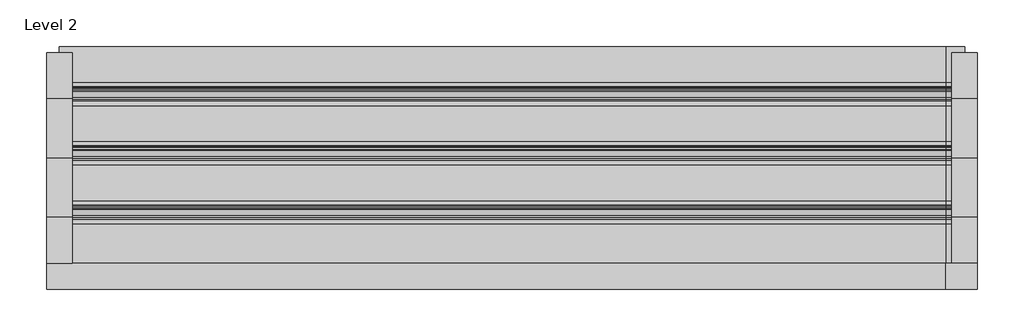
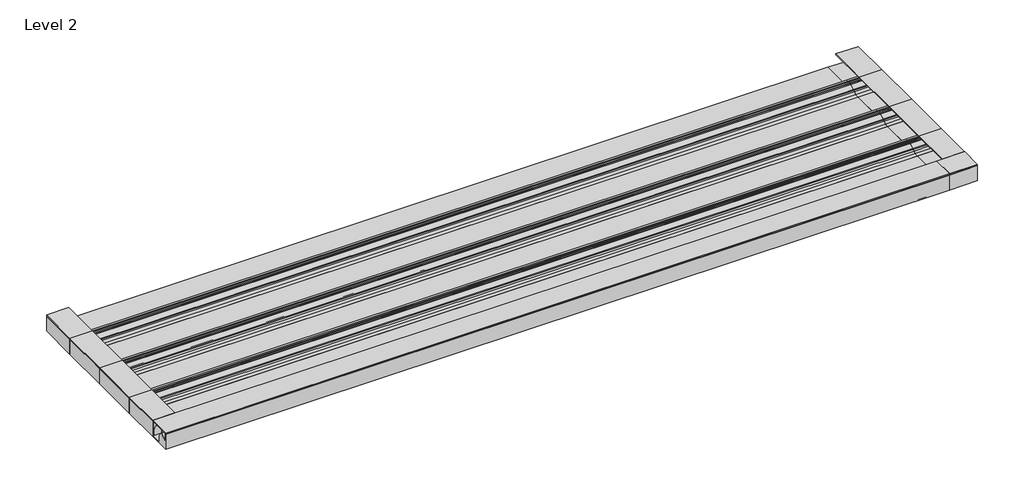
# One storey: 10 members, 8 plates.
"""IFC4 building model written with IfcOpenShell, lengths in millimetres."""

from ifc_helpers import new_model, si_unit, origin, place, context, project, spatial, transform, mapped, element, save
from components import rectangular_mullion_fastplank_2_piece_j_trim_soffit_b0c86bea, rectangular_mullion_fastplank_2_piece_j_trim_soffit_a2a4a74a, rectangular_mullion_fastplank_2_piece_j_trim_soffit_34017da6, rectangular_mullion_fastplank_2_piece_j_trim_soffit_1b3d705d, rectangular_mullion_fastplank_2_piece_j_trim_soffit_3acf384f, plate_b531e358, plate_38b17508, plate_53d9c273, plate_b1f777b9

model = new_model("IFC4")

# Units and contexts
model_context = context("Model", 3, world=origin())
ifc_project = project(units=[si_unit("LENGTHUNIT", "METRE", prefix="MILLI")], contexts=[model_context])

# Site, building, storey
site = spatial("IfcSite", under=ifc_project)
building = spatial("IfcBuilding", under=site)
storey = spatial("IfcBuildingStorey", under=building, Name="Level 2", Elevation=3048.0)

# Members
placement = place(None, origin())
rectangular_mullion_fastplank_2_piece_j_trim_soffit_shape = rectangular_mullion_fastplank_2_piece_j_trim_soffit_b0c86bea(model_context)
element("IfcMember", 1, ObjectType="Rectangular Mullion : FastPlank_2-Piece-J-Trim-Soffit", at=placement, inside=storey, context=model_context, shape_type="MappedRepresentation", body=[
    mapped(rectangular_mullion_fastplank_2_piece_j_trim_soffit_shape, transform((-2056.789314, 5271.3773851, 2032.0), x_axis=(-1.0, 0.0, 0.0), y_axis=(0.0, 0.0, -1.0), z_axis=(0.0, -1.0, 0.0))),
])
element("IfcMember", 2, ObjectType="Rectangular Mullion : FastPlank_2-Piece-J-Trim-Soffit", at=placement, inside=storey, context=model_context, shape_type="MappedRepresentation", body=[
    mapped(rectangular_mullion_fastplank_2_piece_j_trim_soffit_shape, transform((-2056.789314, 5372.9773851, 2032.0), x_axis=(-1.0, 0.0, 0.0), y_axis=(0.0, 0.0, -1.0), z_axis=(0.0, -1.0, 0.0))),
])
element("IfcMember", 3, ObjectType="Rectangular Mullion : FastPlank_2-Piece-J-Trim-Soffit", at=placement, inside=storey, context=model_context, shape_type="MappedRepresentation", body=[
    mapped(rectangular_mullion_fastplank_2_piece_j_trim_soffit_shape, transform((-456.589314, 5372.9773851, 2032.0), x_axis=(1.0, 0.0, 0.0), y_axis=(0.0, 0.0, -1.0), z_axis=(0.0, 1.0, 0.0))),
])
element("IfcMember", 4, ObjectType="Rectangular Mullion : FastPlank_2-Piece-J-Trim-Soffit", at=placement, inside=storey, context=model_context, shape_type="MappedRepresentation", body=[
    mapped(rectangular_mullion_fastplank_2_piece_j_trim_soffit_shape, transform((-456.589314, 5474.5773851, 2032.0), x_axis=(1.0, 0.0, 0.0), y_axis=(0.0, 0.0, -1.0), z_axis=(0.0, 1.0, 0.0))),
])
rectangular_mullion_fastplank_2_piece_j_trim_soffit_2_shape = rectangular_mullion_fastplank_2_piece_j_trim_soffit_a2a4a74a(model_context)
element("IfcMember", 5, ObjectType="Rectangular Mullion : FastPlank_2-Piece-J-Trim-Soffit", at=placement, inside=storey, context=model_context, shape_type="MappedRepresentation", body=[
    mapped(rectangular_mullion_fastplank_2_piece_j_trim_soffit_2_shape, transform((-2056.789314, 5192.2885767, 2032.0), x_axis=(-1.0, 0.0, 0.0), y_axis=(0.0, 0.0, -1.0), z_axis=(0.0, -1.0, 0.0))),
])
rectangular_mullion_fastplank_2_piece_j_trim_soffit_3_shape = rectangular_mullion_fastplank_2_piece_j_trim_soffit_34017da6(model_context)
element("IfcMember", 6, ObjectType="Rectangular Mullion : FastPlank_2-Piece-J-Trim-Soffit", at=placement, inside=storey, context=model_context, shape_type="MappedRepresentation", body=[
    mapped(rectangular_mullion_fastplank_2_piece_j_trim_soffit_3_shape, transform((-2056.789314, 5474.5773851, 2032.0), x_axis=(-1.0, 0.0, 0.0), y_axis=(0.0, 0.0, -1.0), z_axis=(0.0, -1.0, 0.0))),
])
element("IfcMember", 7, ObjectType="Rectangular Mullion : FastPlank_2-Piece-J-Trim-Soffit", at=placement, inside=storey, context=model_context, shape_type="MappedRepresentation", body=[
    mapped(rectangular_mullion_fastplank_2_piece_j_trim_soffit_2_shape, transform((-456.589314, 5271.3773851, 2032.0), x_axis=(1.0, 0.0, 0.0), y_axis=(0.0, 0.0, -1.0), z_axis=(0.0, 1.0, 0.0))),
])
element("IfcMember", 8, ObjectType="Rectangular Mullion : FastPlank_2-Piece-J-Trim-Soffit", at=placement, inside=storey, context=model_context, shape_type="MappedRepresentation", body=[
    mapped(rectangular_mullion_fastplank_2_piece_j_trim_soffit_3_shape, transform((-456.589314, 5554.2410752, 2032.0), x_axis=(1.0, 0.0, 0.0), y_axis=(0.0, 0.0, -1.0), z_axis=(0.0, 1.0, 0.0))),
])
rectangular_mullion_fastplank_2_piece_j_trim_soffit_4_shape = rectangular_mullion_fastplank_2_piece_j_trim_soffit_1b3d705d(model_context)
element("IfcMember", 9, ObjectType="Rectangular Mullion : FastPlank_2-Piece-J-Trim-Soffit", at=placement, inside=storey, context=model_context, shape_type="MappedRepresentation", body=[
    mapped(rectangular_mullion_fastplank_2_piece_j_trim_soffit_4_shape, transform((-456.589314, 5147.8410752, 2032.0), x_axis=(0.0, -1.0, 0.0), y_axis=(0.0, 0.0, -1.0), z_axis=(1.0, 0.0, 0.0))),
])
rectangular_mullion_fastplank_2_piece_j_trim_soffit_5_shape = rectangular_mullion_fastplank_2_piece_j_trim_soffit_3acf384f(model_context)
element("IfcMember", 10, ObjectType="Rectangular Mullion : FastPlank_2-Piece-J-Trim-Soffit", at=placement, inside=storey, context=model_context, shape_type="MappedRepresentation", body=[
    mapped(rectangular_mullion_fastplank_2_piece_j_trim_soffit_5_shape, transform((-510.8530037, 5147.8410752, 2032.0), x_axis=(0.0, -1.0, 0.0), y_axis=(0.0, 0.0, -1.0), z_axis=(1.0, 0.0, 0.0))),
])

# Plates
plate_shape = plate_b531e358(model_context)
element("IfcPlate", 11, ObjectType="FastPlank_P47V-V-Notch-Soffit-Plank : P47V-V-Notch-Soffit-Plank", at=placement, inside=storey, context=model_context, shape_type="MappedRepresentation", body=[
    mapped(plate_shape, transform((-1272.8530038, 5169.7773851, 2032.0), x_axis=(1.0, 0.0, 0.0), y_axis=(0.0, 0.0, -1.0), z_axis=(0.0, 1.0, 0.0))),
])
element("IfcPlate", 12, ObjectType="FastPlank_P47V-V-Notch-Soffit-Plank : P47V-V-Notch-Soffit-Plank", at=placement, inside=storey, context=model_context, shape_type="MappedRepresentation", body=[
    mapped(plate_shape, transform((-1272.8530038, 5271.3773851, 2032.0), x_axis=(1.0, 0.0, 0.0), y_axis=(0.0, 0.0, -1.0), z_axis=(0.0, 1.0, 0.0))),
])
element("IfcPlate", 13, ObjectType="FastPlank_P47V-V-Notch-Soffit-Plank : P47V-V-Notch-Soffit-Plank", at=placement, inside=storey, context=model_context, shape_type="MappedRepresentation", body=[
    mapped(plate_shape, transform((-1272.8530038, 5372.9773851, 2032.0), x_axis=(1.0, 0.0, 0.0), y_axis=(0.0, 0.0, -1.0), z_axis=(0.0, 1.0, 0.0))),
])
plate_2_shape = plate_38b17508(model_context)
element("IfcPlate", 14, ObjectType="FastPlank_P47V-V-Notch-Soffit-Plank : P47V-V-Notch-Soffit-Plank", at=placement, inside=storey, context=model_context, shape_type="MappedRepresentation", body=[
    mapped(plate_2_shape, transform((-494.6893138, 5169.7773851, 2032.0), x_axis=(1.0, 0.0, 0.0), y_axis=(0.0, 0.0, -1.0), z_axis=(0.0, 1.0, 0.0))),
])
element("IfcPlate", 15, ObjectType="FastPlank_P47V-V-Notch-Soffit-Plank : P47V-V-Notch-Soffit-Plank", at=placement, inside=storey, context=model_context, shape_type="MappedRepresentation", body=[
    mapped(plate_2_shape, transform((-494.6893138, 5271.3773851, 2032.0), x_axis=(1.0, 0.0, 0.0), y_axis=(0.0, 0.0, -1.0), z_axis=(0.0, 1.0, 0.0))),
])
element("IfcPlate", 16, ObjectType="FastPlank_P47V-V-Notch-Soffit-Plank : P47V-V-Notch-Soffit-Plank", at=placement, inside=storey, context=model_context, shape_type="MappedRepresentation", body=[
    mapped(plate_2_shape, transform((-494.6893138, 5372.9773851, 2032.0), x_axis=(1.0, 0.0, 0.0), y_axis=(0.0, 0.0, -1.0), z_axis=(0.0, 1.0, 0.0))),
])
plate_3_shape = plate_53d9c273(model_context)
element("IfcPlate", 17, ObjectType="FastPlank_P47V-V-Notch-Soffit-Plank : P47V-V-Notch-Soffit-Plank", at=placement, inside=storey, context=model_context, shape_type="MappedRepresentation", body=[
    mapped(plate_3_shape, transform((-1272.8530038, 5474.5773851, 2032.0), x_axis=(1.0, 0.0, 0.0), y_axis=(0.0, 0.0, -1.0), z_axis=(0.0, 1.0, 0.0))),
])
plate_4_shape = plate_b1f777b9(model_context)
element("IfcPlate", 18, ObjectType="FastPlank_P47V-V-Notch-Soffit-Plank : P47V-V-Notch-Soffit-Plank", at=placement, inside=storey, context=model_context, shape_type="MappedRepresentation", body=[
    mapped(plate_4_shape, transform((-494.6893138, 5474.5773851, 2032.0), x_axis=(1.0, 0.0, 0.0), y_axis=(0.0, 0.0, -1.0), z_axis=(0.0, 1.0, 0.0))),
])

save(model, "model.ifc")
